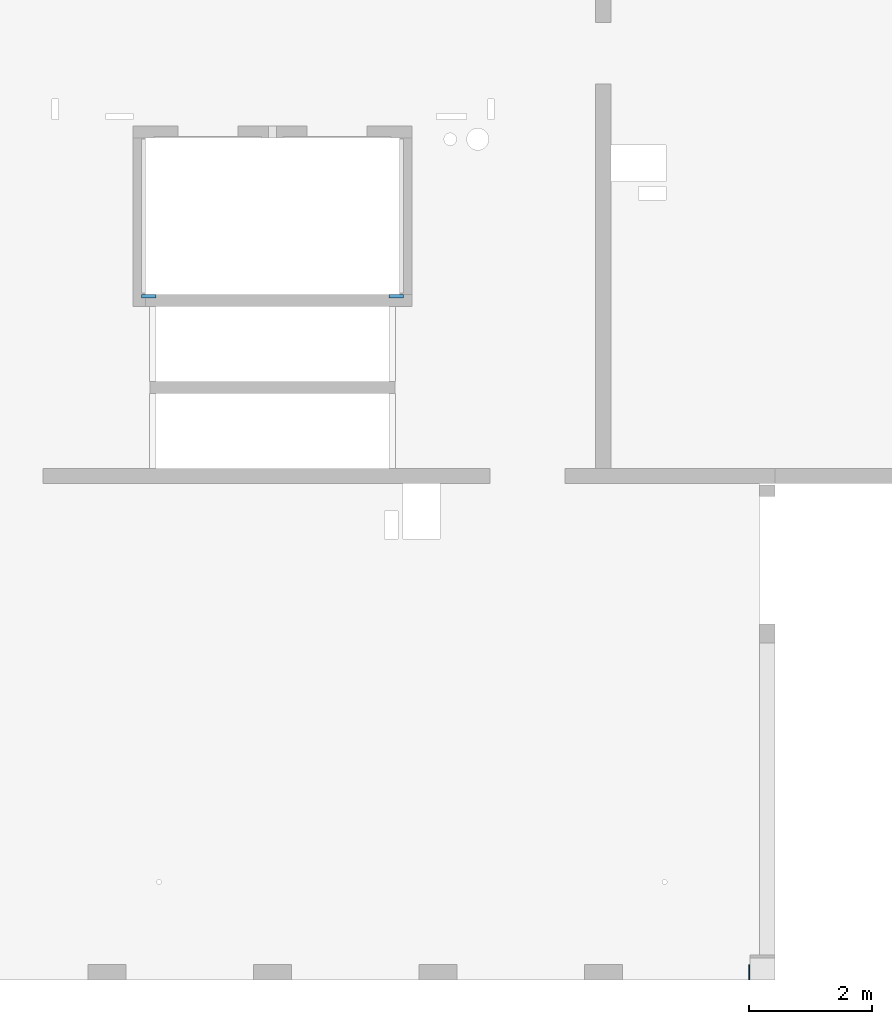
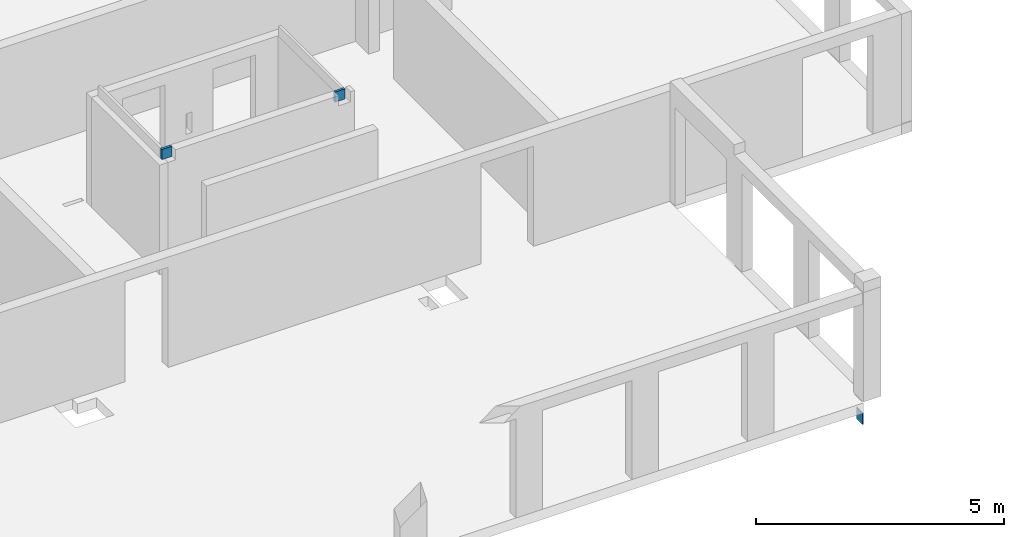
# One storey, part 8 of 11: 3 walls, 1 opening.
"""IFC2X3 building model written with IfcOpenShell, lengths in millimetres."""

from ifc_helpers import new_model, entity, si_unit, converted_unit, derived_unit, direction, frame, frame_2d, origin, place, context, subcontext, project, spatial, rectangle, extrude, material, layer, layer_set, layer_usage, type_object, element, save


model = new_model("IFC2X3")

# Units and contexts
model_context = context("Model", 3, precision=0.01, world=origin(), true_north=direction((6.12303176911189e-17, 1.0)))
body_context = subcontext(model_context, "Body", "Model", "MODEL_VIEW")
ifc_project = project(units=[si_unit("LENGTHUNIT", "METRE", prefix="MILLI"), si_unit("AREAUNIT", "SQUARE_METRE"), si_unit("VOLUMEUNIT", "CUBIC_METRE"), converted_unit("PLANEANGLEUNIT", "DEGREE", entity("IfcRatioMeasure", 0.0174532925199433), si_unit("PLANEANGLEUNIT", "RADIAN"), dimensions=[0, 0, 0, 0, 0, 0, 0]), si_unit("MASSUNIT", "GRAM", prefix="KILO"), derived_unit("MASSDENSITYUNIT", [(si_unit("MASSUNIT", "GRAM", prefix="KILO"), 1), (si_unit("LENGTHUNIT", "METRE"), -3)]), si_unit("TIMEUNIT", "SECOND"), si_unit("FREQUENCYUNIT", "HERTZ"), si_unit("THERMODYNAMICTEMPERATUREUNIT", "DEGREE_CELSIUS"), derived_unit("THERMALTRANSMITTANCEUNIT", [(si_unit("MASSUNIT", "GRAM", prefix="KILO"), 1), (si_unit("THERMODYNAMICTEMPERATUREUNIT", "KELVIN"), -1), (si_unit("TIMEUNIT", "SECOND"), -3)]), derived_unit("VOLUMETRICFLOWRATEUNIT", [(si_unit("LENGTHUNIT", "METRE"), 3), (si_unit("TIMEUNIT", "SECOND"), -1)]), si_unit("ELECTRICCURRENTUNIT", "AMPERE"), si_unit("ELECTRICVOLTAGEUNIT", "VOLT"), si_unit("POWERUNIT", "WATT"), si_unit("FORCEUNIT", "NEWTON", prefix="KILO"), si_unit("ILLUMINANCEUNIT", "LUX"), si_unit("LUMINOUSFLUXUNIT", "LUMEN"), si_unit("LUMINOUSINTENSITYUNIT", "CANDELA"), derived_unit("USERDEFINED", [(si_unit("MASSUNIT", "GRAM", prefix="KILO"), -1), (si_unit("LENGTHUNIT", "METRE"), -2), (si_unit("TIMEUNIT", "SECOND"), 3), (si_unit("LUMINOUSFLUXUNIT", "LUMEN"), 1)]), derived_unit("LINEARVELOCITYUNIT", [(si_unit("LENGTHUNIT", "METRE"), 1), (si_unit("TIMEUNIT", "SECOND"), -1)]), si_unit("PRESSUREUNIT", "PASCAL"), derived_unit("USERDEFINED", [(si_unit("LENGTHUNIT", "METRE"), -2), (si_unit("MASSUNIT", "GRAM", prefix="KILO"), 1), (si_unit("TIMEUNIT", "SECOND"), -2)])], contexts=[model_context])

# Site, building, storey
site_placement = place(None, origin())
site = spatial("IfcSite", under=ifc_project, at=site_placement, Name="Default", CompositionType="ELEMENT")
building_placement = place(site_placement, origin())
building = spatial("IfcBuilding", under=site, at=building_placement, Name="niet gebruiken", CompositionType="ELEMENT")
storey_placement = place(building_placement, frame((0.0, 0.0, 57150.0)))
storey = spatial("IfcBuildingStorey", under=building, at=storey_placement, Name="19 negentiende verdieping", CompositionType="ELEMENT", Elevation=57150.0)

# Wall, opening
ifc_material_1 = material(Name="NLRS_f2_beton ihwg")
ifc_layer_1 = layer(ifc_material_1, 250.0)
ifc_layer_set_1 = layer_set([ifc_layer_1], Name="Basic Wall:NLRS_21.21_WA_beton ihwg d=250_gen")
ifc_layer_usage_1 = layer_usage(ifc_layer_set_1, "AXIS2", "NEGATIVE", 125.0)
wall_type_1 = type_object("IfcWallType", Name="Basic Wall:NLRS_21.21_WA_beton ihwg d=250_gen", PredefinedType="STANDARD", material=ifc_layer_set_1)
wall_1_placement = place(storey_placement, frame((50970.0, 28881.0, -620.0)))
wall_1 = element("IfcWallStandardCase", 1, at=wall_1_placement, inside=storey, type_object=wall_type_1, material=ifc_layer_usage_1, Name="Basic Wall:NLRS_21.21_WA_beton ihwg d=250_gen", ObjectType="Basic Wall:NLRS_21.21_WA_beton ihwg d=250_gen", context=body_context, shape_type="SweptSolid", body=[
    extrude(rectangle(XDim=19.9999999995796, YDim=250.000000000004, at=frame_2d((9.99999999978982, 1.63424829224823e-13), x_axis=(-1.0, 0.0))), origin(), (0.0, 0.0, 1.0), 280.000000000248),
])
opening_placement = place(wall_1_placement, origin())
element("IfcOpeningElement", 2, at=opening_placement, cuts=wall_1, Name="Basic Wall:NLRS_21.21_WA_beton ihwg d=250_gen", ObjectType="Opening", context=body_context, shape_type="SweptSolid", body=[
    extrude(rectangle(XDim=2440.0, YDim=2080.0, at=frame_2d((0.0, 0.0), x_axis=(0.0, 1.0))), frame((-1020.0, -1399.0, -1220.0), z_axis=(0.0, 1.0, 0.0), x_axis=(-1.0, 0.0, 0.0)), (0.0, 0.0, 1.0), 3048.0),
])

# Walls
ifc_material_2 = material(Name="NLRS_f2_beton prefab")
ifc_layer_2 = layer(ifc_material_2, 60.0)
ifc_layer_set_2 = layer_set([ifc_layer_2], Name="Basic Wall:NLRS_22.21_WA_beton prefab d=60_gen")
ifc_layer_usage_2 = layer_usage(ifc_layer_set_2, "AXIS2", "NEGATIVE", 30.0)
wall_type_2 = type_object("IfcWallType", Name="Basic Wall:NLRS_22.21_WA_beton prefab d=60_gen", PredefinedType="STANDARD", material=ifc_layer_set_2)
wall_2_placement = place(storey_placement, frame((41065.0, 39916.0, 2630.0)))
element("IfcWallStandardCase", 3, at=wall_2_placement, inside=storey, type_object=wall_type_2, material=ifc_layer_usage_2, Name="Basic Wall:NLRS_22.21_WA_beton prefab d=60_gen", ObjectType="Basic Wall:NLRS_22.21_WA_beton prefab d=60_gen", context=body_context, shape_type="SweptSolid", body=[
    extrude(rectangle(XDim=234.999999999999, YDim=60.0000000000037, at=frame_2d((117.499999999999, -4.12292422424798e-12), x_axis=(-1.0, 0.0))), origin(), (0.0, 0.0, 1.0), 250.000000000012),
])
ifc_layer_usage_3 = layer_usage(ifc_layer_set_2, "AXIS2", "POSITIVE", -30.0)
wall_3_placement = place(storey_placement, frame((45335.0, 39916.0, 2630.0), z_axis=(0.0, 0.0, 1.0), x_axis=(-1.0, 0.0, 0.0)))
element("IfcWallStandardCase", 4, at=wall_3_placement, inside=storey, type_object=wall_type_2, material=ifc_layer_usage_3, Name="Basic Wall:NLRS_22.21_WA_beton prefab d=60_gen", ObjectType="Basic Wall:NLRS_22.21_WA_beton prefab d=60_gen", context=body_context, shape_type="SweptSolid", body=[
    extrude(rectangle(XDim=234.999967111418, YDim=60.0000000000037, at=frame_2d((117.499983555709, 4.12114786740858e-12), x_axis=(-1.0, 0.0))), origin(), (0.0, 0.0, 1.0), 250.000000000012),
])

save(model, "model.ifc")
